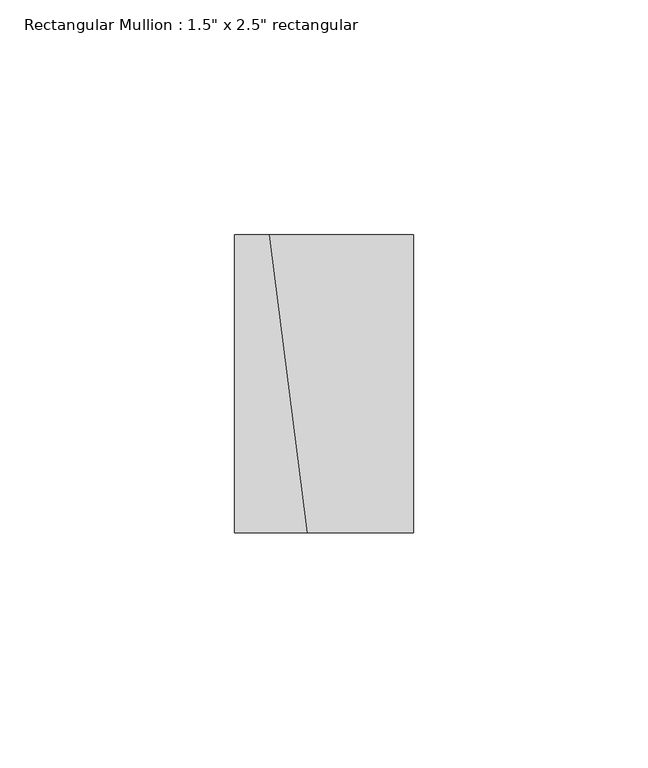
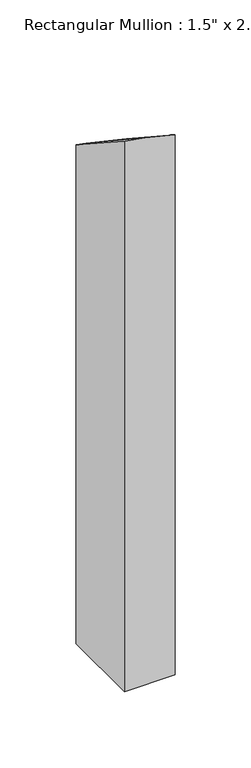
"""IFC4 building model written with IfcOpenShell, lengths in millimetres: member geometry."""

from ifc_helpers import new_model, si_unit, origin, place, context, project, spatial, faceted_brep, source, transform, mapped, element, save


def member_70bd908b(model_context):
    return source(origin(), model_context, "Body", "Brep", [
        faceted_brep([(19.05, 31.75, -454.6514648), (19.05, -31.75, -454.6514648), (-19.05, -31.75, -454.6514648), (-19.05, 31.75, -454.6514648), (-19.05, 31.75, -55.7220594), (-11.6285253, 31.75, -56.9767537), (19.05, 31.75, -64.3276285), (-19.05, -31.75, -14.3705945), (19.05, -31.75, -22.4006378), (-3.4704916, -31.75, -17.0045076)], [[[0, 1, 2, 3]], [[4, 5, 6, 0, 3]], [[7, 4, 3, 2]], [[8, 9, 7, 2, 1]], [[6, 8, 1, 0]], [[6, 5, 9, 8]], [[5, 4, 7, 9]]]),
    ])


if __name__ == "__main__":
    model = new_model("IFC4")
    model_context = context("Model", 3, world=origin())
    ifc_project = project(units=[si_unit("LENGTHUNIT", "METRE", prefix="MILLI")], contexts=[model_context])
    site = spatial("IfcSite", under=ifc_project)
    building = spatial("IfcBuilding", under=site)
    placement = place(None, origin())
    member_shape = member_70bd908b(model_context)
    element("IfcMember", 1, ObjectType="Rectangular Mullion : 1.5\" x 2.5\" rectangular", at=placement, inside=building, context=model_context, shape_type="MappedRepresentation", body=[
        mapped(member_shape, transform((0.0, 0.0, 0.0), x_axis=(1.0, 0.0, 0.0), y_axis=(0.0, 1.0, 0.0), z_axis=(0.0, 0.0, 1.0))),
    ])
    save(model, "model.ifc")
